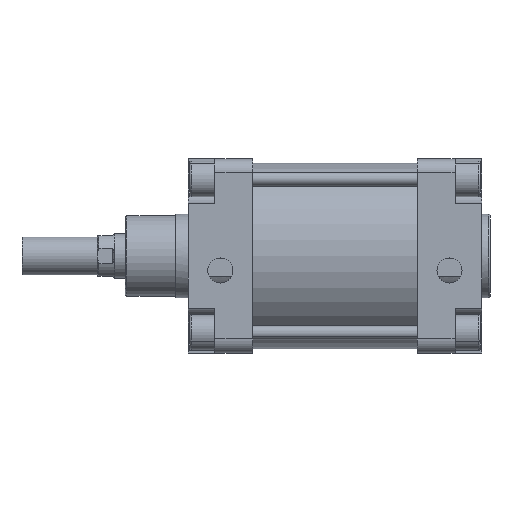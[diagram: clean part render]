
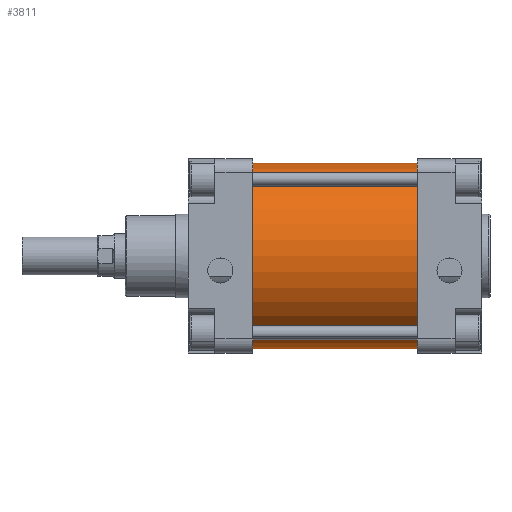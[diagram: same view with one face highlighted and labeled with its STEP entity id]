
A CAD part, top view. The second image highlights one B-rep face of the part: STEP entity #3811.
In plain terms, the highlighted cylindrical face has radius 66.5 mm (diameter 133 mm), a partial arc.
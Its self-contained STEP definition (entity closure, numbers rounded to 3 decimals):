
#3206=CARTESIAN_POINT('Vertex',(118.,-66.5,0.)) ;
#3208=CARTESIAN_POINT('Vertex',(118.,66.5,0.)) ;
#3211=CARTESIAN_POINT('Axis2P3D Location',(118.,0.,0.)) ;
#3781=CARTESIAN_POINT('Axis2P3D Location',(59.,0.,0.)) ;
#3786=CARTESIAN_POINT('Line Origine',(59.,66.5,0.)) ;
#3790=CARTESIAN_POINT('Vertex',(0.,66.5,0.)) ;
#3793=CARTESIAN_POINT('Axis2P3D Location',(0.,0.,0.)) ;
#3797=CARTESIAN_POINT('Vertex',(0.,-66.5,0.)) ;
#3800=CARTESIAN_POINT('Line Origine',(59.,-66.5,0.)) ;
#3212=DIRECTION('Axis2P3D Direction',(1.,0.,0.)) ;
#3782=DIRECTION('Axis2P3D Direction',(1.,0.,0.)) ;
#3783=DIRECTION('Axis2P3D XDirection',(0.,1.,0.)) ;
#3787=DIRECTION('Vector Direction',(1.,0.,0.)) ;
#3794=DIRECTION('Axis2P3D Direction',(1.,0.,0.)) ;
#3801=DIRECTION('Vector Direction',(1.,0.,0.)) ;
#3213=AXIS2_PLACEMENT_3D('Circle Axis2P3D',#3211,#3212,$) ;
#3784=AXIS2_PLACEMENT_3D('Cylinder Axis2P3D',#3781,#3782,#3783) ;
#3795=AXIS2_PLACEMENT_3D('Circle Axis2P3D',#3793,#3794,$) ;
#3806=ORIENTED_EDGE('',*,*,#3792,.F.) ;
#3807=ORIENTED_EDGE('',*,*,#3799,.T.) ;
#3808=ORIENTED_EDGE('',*,*,#3804,.T.) ;
#3809=ORIENTED_EDGE('',*,*,#3215,.F.) ;
#3788=VECTOR('Line Direction',#3787,1.) ;
#3802=VECTOR('Line Direction',#3801,1.) ;
#3811=ADVANCED_FACE('PartBody',(#3810),#3785,.T.) ;
#3214=CIRCLE('generated circle',#3213,66.5) ;
#3796=CIRCLE('generated circle',#3795,66.5) ;
#3785=CYLINDRICAL_SURFACE('generated cylinder',#3784,66.5) ;
#3215=EDGE_CURVE('',#3209,#3207,#3214,.T.) ;
#3792=EDGE_CURVE('',#3791,#3209,#3789,.T.) ;
#3799=EDGE_CURVE('',#3791,#3798,#3796,.T.) ;
#3804=EDGE_CURVE('',#3798,#3207,#3803,.T.) ;
#3805=EDGE_LOOP('',(#3806,#3807,#3808,#3809)) ;
#3810=FACE_OUTER_BOUND('',#3805,.T.) ;
#3789=LINE('Line',#3786,#3788) ;
#3803=LINE('Line',#3800,#3802) ;
#3207=VERTEX_POINT('',#3206) ;
#3209=VERTEX_POINT('',#3208) ;
#3791=VERTEX_POINT('',#3790) ;
#3798=VERTEX_POINT('',#3797) ;
